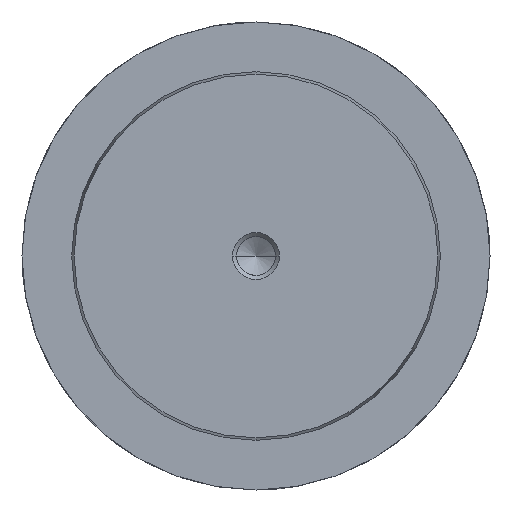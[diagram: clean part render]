
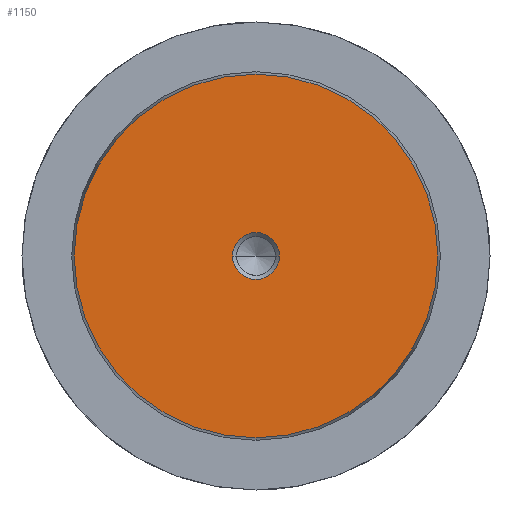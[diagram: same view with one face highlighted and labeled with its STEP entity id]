
A CAD part, left-side view. The second image highlights one B-rep face of the part: STEP entity #1150.
In plain terms, the highlighted planar face has unit normal (-1, 0, 0).
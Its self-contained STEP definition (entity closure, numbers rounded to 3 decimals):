
#1064=CARTESIAN_POINT('Vertex',(0.,0.,-31.078)) ;
#1067=CARTESIAN_POINT('Axis2P3D Location',(0.,0.,0.)) ;
#1071=CARTESIAN_POINT('Vertex',(0.,31.078,0.)) ;
#1074=CARTESIAN_POINT('Axis2P3D Location',(0.,0.,0.)) ;
#1078=CARTESIAN_POINT('Vertex',(0.,0.,31.078)) ;
#1100=CARTESIAN_POINT('Axis2P3D Location',(0.,0.,0.)) ;
#1104=CARTESIAN_POINT('Vertex',(0.,-31.078,0.)) ;
#1107=CARTESIAN_POINT('Axis2P3D Location',(0.,0.,0.)) ;
#1121=CARTESIAN_POINT('Axis2P3D Location',(0.,0.,0.)) ;
#1132=CARTESIAN_POINT('Axis2P3D Location',(0.,0.,0.)) ;
#1136=CARTESIAN_POINT('Vertex',(0.,4.,0.)) ;
#1138=CARTESIAN_POINT('Vertex',(0.,-4.,0.)) ;
#1141=CARTESIAN_POINT('Axis2P3D Location',(0.,0.,0.)) ;
#1068=DIRECTION('Axis2P3D Direction',(1.,0.,-0.)) ;
#1075=DIRECTION('Axis2P3D Direction',(1.,0.,-0.)) ;
#1101=DIRECTION('Axis2P3D Direction',(1.,0.,-0.)) ;
#1108=DIRECTION('Axis2P3D Direction',(1.,0.,-0.)) ;
#1122=DIRECTION('Axis2P3D Direction',(1.,0.,-0.)) ;
#1123=DIRECTION('Axis2P3D XDirection',(-0.,0.,-1.)) ;
#1133=DIRECTION('Axis2P3D Direction',(1.,0.,-0.)) ;
#1142=DIRECTION('Axis2P3D Direction',(1.,0.,-0.)) ;
#1069=AXIS2_PLACEMENT_3D('Circle Axis2P3D',#1067,#1068,$) ;
#1076=AXIS2_PLACEMENT_3D('Circle Axis2P3D',#1074,#1075,$) ;
#1102=AXIS2_PLACEMENT_3D('Circle Axis2P3D',#1100,#1101,$) ;
#1109=AXIS2_PLACEMENT_3D('Circle Axis2P3D',#1107,#1108,$) ;
#1124=AXIS2_PLACEMENT_3D('Plane Axis2P3D',#1121,#1122,#1123) ;
#1134=AXIS2_PLACEMENT_3D('Circle Axis2P3D',#1132,#1133,$) ;
#1143=AXIS2_PLACEMENT_3D('Circle Axis2P3D',#1141,#1142,$) ;
#1127=ORIENTED_EDGE('',*,*,#1073,.F.) ;
#1128=ORIENTED_EDGE('',*,*,#1111,.F.) ;
#1129=ORIENTED_EDGE('',*,*,#1106,.F.) ;
#1130=ORIENTED_EDGE('',*,*,#1080,.F.) ;
#1147=ORIENTED_EDGE('',*,*,#1140,.T.) ;
#1148=ORIENTED_EDGE('',*,*,#1145,.T.) ;
#1149=FACE_BOUND('',#1146,.T.) ;
#1150=ADVANCED_FACE('718-63x315',(#1131,#1149),#1125,.F.) ;
#1070=CIRCLE('generated circle',#1069,31.078) ;
#1077=CIRCLE('generated circle',#1076,31.078) ;
#1103=CIRCLE('generated circle',#1102,31.078) ;
#1110=CIRCLE('generated circle',#1109,31.078) ;
#1135=CIRCLE('generated circle',#1134,4.) ;
#1144=CIRCLE('generated circle',#1143,4.) ;
#1073=EDGE_CURVE('',#1065,#1072,#1070,.T.) ;
#1080=EDGE_CURVE('',#1072,#1079,#1077,.T.) ;
#1106=EDGE_CURVE('',#1079,#1105,#1103,.T.) ;
#1111=EDGE_CURVE('',#1105,#1065,#1110,.T.) ;
#1140=EDGE_CURVE('',#1137,#1139,#1135,.T.) ;
#1145=EDGE_CURVE('',#1139,#1137,#1144,.T.) ;
#1126=EDGE_LOOP('',(#1127,#1128,#1129,#1130)) ;
#1146=EDGE_LOOP('',(#1147,#1148)) ;
#1131=FACE_OUTER_BOUND('',#1126,.T.) ;
#1125=PLANE('Plane',#1124) ;
#1065=VERTEX_POINT('',#1064) ;
#1072=VERTEX_POINT('',#1071) ;
#1079=VERTEX_POINT('',#1078) ;
#1105=VERTEX_POINT('',#1104) ;
#1137=VERTEX_POINT('',#1136) ;
#1139=VERTEX_POINT('',#1138) ;
